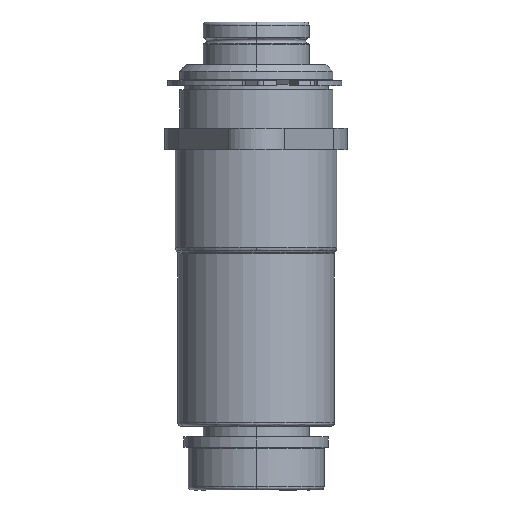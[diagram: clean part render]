
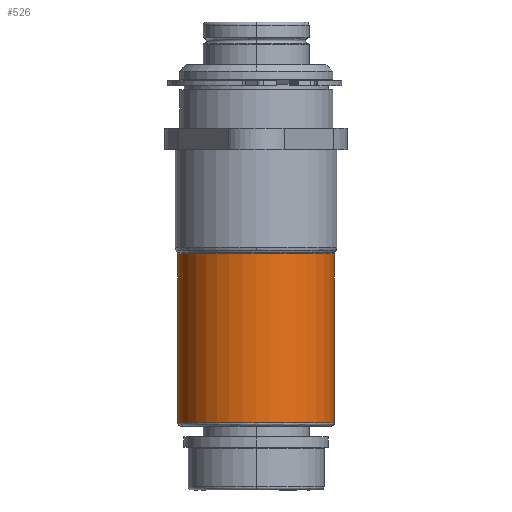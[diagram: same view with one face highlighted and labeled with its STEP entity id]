
A CAD part, left-side view. The second image highlights one B-rep face of the part: STEP entity #526.
In plain terms, the highlighted cylindrical face has radius 23.368 mm (diameter 46.736 mm), a partial arc.
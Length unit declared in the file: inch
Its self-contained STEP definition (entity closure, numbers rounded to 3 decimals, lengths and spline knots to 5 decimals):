
#57 = VERTEX_POINT ( 'NONE', #1723 ) ;
#143 = CARTESIAN_POINT ( 'NONE',  ( 0., -1.225, -0.92 ) ) ;
#200 = CARTESIAN_POINT ( 'NONE',  ( -0.92, -1.225, 0. ) ) ;
#203 = CIRCLE ( 'NONE', #2403, 0.92 ) ;
#226 = AXIS2_PLACEMENT_3D ( 'NONE', #4658, #265, #2287 ) ;
#265 = DIRECTION ( 'NONE',  ( 0., 1., 0. ) ) ;
#348 = EDGE_CURVE ( 'NONE', #2771, #3920, #4940, .T. ) ;
#526 = ADVANCED_FACE ( 'NONE', ( #577 ), #2875, .T. ) ;
#577 = FACE_OUTER_BOUND ( 'NONE', #3218, .T. ) ;
#827 = ORIENTED_EDGE ( 'NONE', *, *, #4294, .T. ) ;
#944 = ORIENTED_EDGE ( 'NONE', *, *, #348, .F. ) ;
#1209 = EDGE_CURVE ( 'NONE', #57, #4812, #1955, .T. ) ;
#1484 = CARTESIAN_POINT ( 'NONE',  ( 0., -3.25, 0.92 ) ) ;
#1723 = CARTESIAN_POINT ( 'NONE',  ( 0., -3.21, 0.92 ) ) ;
#1736 = EDGE_CURVE ( 'NONE', #57, #2771, #2456, .T. ) ;
#1753 = CARTESIAN_POINT ( 'NONE',  ( 0., -1.225, 0. ) ) ;
#1803 = ORIENTED_EDGE ( 'NONE', *, *, #1736, .F. ) ;
#1829 = CARTESIAN_POINT ( 'NONE',  ( 0., -3.21, 0. ) ) ;
#1914 = DIRECTION ( 'NONE',  ( 0., 1., 0. ) ) ;
#1930 = CARTESIAN_POINT ( 'NONE',  ( 0., -1.225, 0.92 ) ) ;
#1934 = DIRECTION ( 'NONE',  ( 0., 0., 1. ) ) ;
#1955 = LINE ( 'NONE', #1484, #2330 ) ;
#2262 = DIRECTION ( 'NONE',  ( 0., -1., 0. ) ) ;
#2287 = DIRECTION ( 'NONE',  ( 0., 0., 1. ) ) ;
#2330 = VECTOR ( 'NONE', #1914, 39.37008 ) ;
#2403 = AXIS2_PLACEMENT_3D ( 'NONE', #1753, #2262, #4622 ) ;
#2456 = CIRCLE ( 'NONE', #2785, 0.92 ) ;
#2712 = DIRECTION ( 'NONE',  ( 0., -1., 0. ) ) ;
#2771 = VERTEX_POINT ( 'NONE', #4298 ) ;
#2785 = AXIS2_PLACEMENT_3D ( 'NONE', #1829, #3048, #4601 ) ;
#2875 = CYLINDRICAL_SURFACE ( 'NONE', #226, 0.92 ) ;
#3014 = ORIENTED_EDGE ( 'NONE', *, *, #1209, .T. ) ;
#3048 = DIRECTION ( 'NONE',  ( 0., -1., 0. ) ) ;
#3218 = EDGE_LOOP ( 'NONE', ( #944, #1803, #3014, #827, #3374 ) ) ;
#3374 = ORIENTED_EDGE ( 'NONE', *, *, #4655, .T. ) ;
#3612 = VERTEX_POINT ( 'NONE', #200 ) ;
#3920 = VERTEX_POINT ( 'NONE', #143 ) ;
#4062 = CARTESIAN_POINT ( 'NONE',  ( 0., -3.25, -0.92 ) ) ;
#4129 = DIRECTION ( 'NONE',  ( 0., 1., 0. ) ) ;
#4286 = AXIS2_PLACEMENT_3D ( 'NONE', #4303, #2712, #1934 ) ;
#4294 = EDGE_CURVE ( 'NONE', #4812, #3612, #4429, .T. ) ;
#4298 = CARTESIAN_POINT ( 'NONE',  ( 0., -3.21, -0.92 ) ) ;
#4303 = CARTESIAN_POINT ( 'NONE',  ( 0., -1.225, 0. ) ) ;
#4386 = VECTOR ( 'NONE', #4129, 39.37008 ) ;
#4429 = CIRCLE ( 'NONE', #4286, 0.92 ) ;
#4601 = DIRECTION ( 'NONE',  ( 0., 0., -1. ) ) ;
#4622 = DIRECTION ( 'NONE',  ( 0., 0., 1. ) ) ;
#4655 = EDGE_CURVE ( 'NONE', #3612, #3920, #203, .T. ) ;
#4658 = CARTESIAN_POINT ( 'NONE',  ( 0., -3.25, 0. ) ) ;
#4812 = VERTEX_POINT ( 'NONE', #1930 ) ;
#4940 = LINE ( 'NONE', #4062, #4386 ) ;
